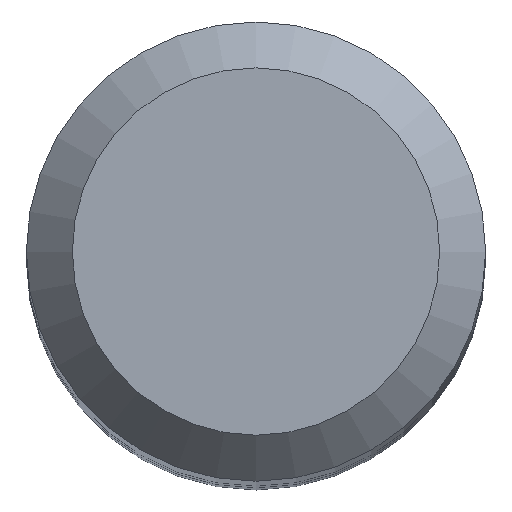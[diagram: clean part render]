
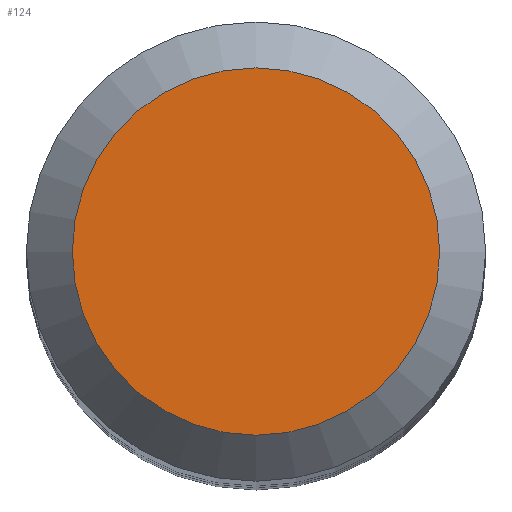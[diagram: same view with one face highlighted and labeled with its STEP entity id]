
A CAD part, top view. The second image highlights one B-rep face of the part: STEP entity #124.
In plain terms, the highlighted planar face has unit normal (0, 0, 1).
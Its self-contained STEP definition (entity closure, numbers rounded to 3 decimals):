
#108=CARTESIAN_POINT('',(3.2,0.0,90.0));
#109=DIRECTION('',(0.0,0.0,1.0));
#110=DIRECTION('',(1.0,0.0,0.0));
#111=AXIS2_PLACEMENT_3D('',#108,#109,#110);
#112=PLANE('',#111);
#113=CARTESIAN_POINT('',(-3.2,0.0,90.0));
#114=VERTEX_POINT('',#113);
#115=CARTESIAN_POINT('',(0.0,0.0,90.0));
#116=DIRECTION('',(0.0,0.0,-1.0));
#117=DIRECTION('',(-1.0,0.0,0.0));
#118=AXIS2_PLACEMENT_3D('',#115,#116,#117);
#119=CIRCLE('',#118,3.2);
#120=EDGE_CURVE('',#114,#114,#119,.T.);
#121=ORIENTED_EDGE('',*,*,#120,.F.);
#122=EDGE_LOOP('',(#121));
#123=FACE_OUTER_BOUND('',#122,.T.);
#124=ADVANCED_FACE('',(#123),#112,.T.);
